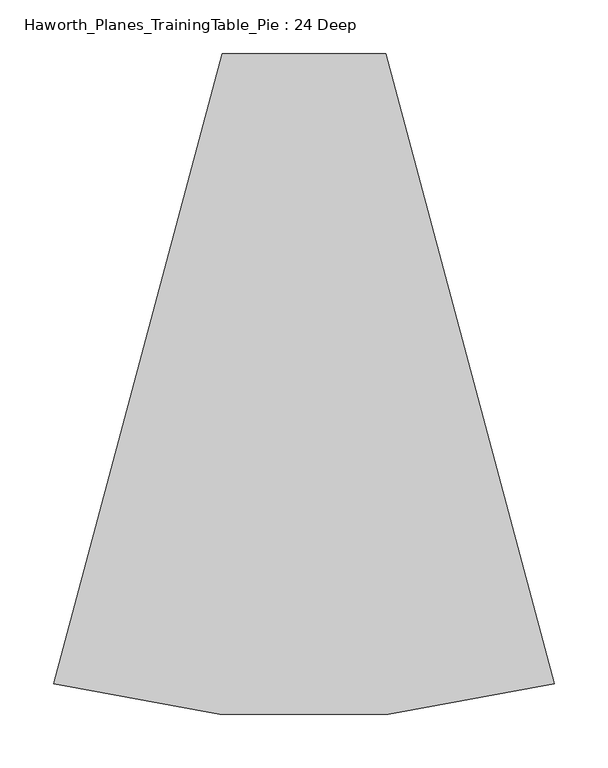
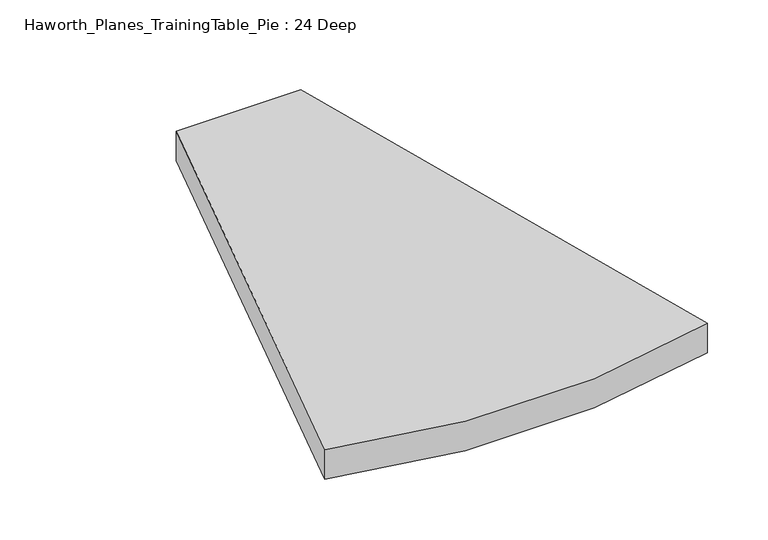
"""IFC4 building model written with IfcOpenShell, lengths in millimetres: furniture geometry, Haworth_Planes_TrainingTable_Pie : 24 Deep."""

import ifcopenshell
import ifcopenshell.guid

model = None  # the IFC model being written
_history = None  # IfcOwnerHistory: only IFC2X3 demands one
_inside = {}  # id of a spatial element -> (the spatial element, [elements in it])
_under = {}  # id of a project, library or spatial element -> (it, [spatial elements below it])
_declared = {}  # id of a project -> (the project, [libraries it declares])
_typed = {}  # id of a type object -> (the type object, [elements of that type])
_made_of = {}  # id of a material, layer set ... -> (it, [elements and type objects made of it])


def new_model(schema):
    """Start an empty IFC model of exactly this schema.

    Asked for "IFC4X3", IfcOpenShell would pick the latest addendum, in which some entities
    have other attributes; the version numbers below select the first issue.
    IFC2X3 requires an IfcOwnerHistory on every rooted entity: one is made here for all.
    """
    global model, _history
    if schema == "IFC4X3":
        model = ifcopenshell.file(schema_version=(4, 3, 0, 0))
    else:
        model = ifcopenshell.file(schema=schema)
    _inside.clear()
    _under.clear()
    _declared.clear()
    _typed.clear()
    _made_of.clear()
    _history = None
    if model.schema == "IFC2X3":
        org = make("IfcOrganization", Name="unknown")
        user = make(
            "IfcPersonAndOrganization",
            ThePerson=make("IfcPerson", FamilyName="unknown"),
            TheOrganization=org,
        )
        app = make(
            "IfcApplication",
            ApplicationDeveloper=org,
            Version="unknown",
            ApplicationFullName="unknown",
            ApplicationIdentifier="unknown",
        )
        _history = make(
            "IfcOwnerHistory",
            OwningUser=user,
            OwningApplication=app,
            ChangeAction="ADDED",
            CreationDate=0,
        )
    return model


def make(cls, **values):
    """One entity of the class cls with the attributes given. An attribute that is None is left unset."""
    return model.create_entity(
        cls, **{name: value for name, value in values.items() if value is not None}
    )


def rooted(cls, **values):
    """An entity with a GlobalId (a new one), such as an element, a storey or a relation."""
    return make(cls, GlobalId=ifcopenshell.guid.new(), OwnerHistory=_history, **values)


def si_unit(unit_type, name, prefix=None):
    """IfcSIUnit, for example si_unit("LENGTHUNIT", "METRE", prefix="MILLI")."""
    return make("IfcSIUnit", UnitType=unit_type, Prefix=prefix, Name=name)


def assignment(units):
    """IfcUnitAssignment: the units of a project."""
    return None if units is None else make("IfcUnitAssignment", Units=units)


def point(xyz):
    """IfcCartesianPoint."""
    return None if xyz is None else make("IfcCartesianPoint", Coordinates=xyz)


def direction(xyz):
    """IfcDirection."""
    return None if xyz is None else make("IfcDirection", DirectionRatios=xyz)


def frame(location, z_axis=None, x_axis=None):
    """IfcAxis2Placement3D, a coordinate frame: its origin and axes. An axis left out is left unset."""
    return make(
        "IfcAxis2Placement3D",
        Location=point(location),
        Axis=direction(z_axis),
        RefDirection=direction(x_axis),
    )


def frame_2d(location, x_axis=None):
    """IfcAxis2Placement2D, a coordinate frame in the plane: its origin and x axis."""
    return make(
        "IfcAxis2Placement2D", Location=point(location), RefDirection=direction(x_axis)
    )


def origin():
    """The frame at (0, 0, 0) with its axes left unset."""
    return frame((0.0, 0.0, 0.0))


def place(relative_to, where):
    """IfcLocalPlacement: puts the frame where relative to a parent placement (None: the world)."""
    return make(
        "IfcLocalPlacement", PlacementRelTo=relative_to, RelativePlacement=where
    )


def context(
    kind, dimensions, precision=None, world=None, true_north=None, identifier=None
):
    """IfcGeometricRepresentationContext, for example the 3D "Model" context."""
    return make(
        "IfcGeometricRepresentationContext",
        ContextIdentifier=identifier,
        ContextType=kind,
        CoordinateSpaceDimension=dimensions,
        Precision=precision,
        WorldCoordinateSystem=world,
        TrueNorth=true_north,
    )


def project(units=None, contexts=None):
    """IfcProject with its units and contexts."""
    return rooted(
        "IfcProject",
        Name="project",
        RepresentationContexts=contexts,
        UnitsInContext=assignment(units),
    )


def spatial(cls, under=None, at=None, **own):
    """A site, building, storey or space (cls), placed at a placement, below another one or the project."""
    s = rooted(cls, ObjectPlacement=at, **own)
    if under is not None:
        _under.setdefault(under.id(), (under, []))[1].append(s)
    return s


def polyline(points):
    """IfcPolyline through the points."""
    return make("IfcPolyline", Points=[point(p) for p in points])


def circle_curve(where, radius):
    """IfcCircle in the frame where."""
    return make("IfcCircle", Position=where, Radius=radius)


def trimmed(basis, trim1, trim2, sense, master):
    """IfcTrimmedCurve: the piece of a basis curve between two trims."""
    return make(
        "IfcTrimmedCurve",
        BasisCurve=basis,
        Trim1=trim1,
        Trim2=trim2,
        SenseAgreement=sense,
        MasterRepresentation=master,
    )


def segment(curve, same_sense, transition):
    """IfcCompositeCurveSegment."""
    return make(
        "IfcCompositeCurveSegment",
        Transition=transition,
        SameSense=same_sense,
        ParentCurve=curve,
    )


def composite_curve(segments, self_intersect=None):
    """IfcCompositeCurve: segments joined end to end."""
    return make("IfcCompositeCurve", Segments=segments, SelfIntersect=self_intersect)


def outline(outer, holes=None, kind="AREA"):
    """IfcArbitraryClosedProfileDef: a profile drawn as a closed curve; with holes, ...WithVoids."""
    if holes is None:
        return make("IfcArbitraryClosedProfileDef", ProfileType=kind, OuterCurve=outer)
    return make(
        "IfcArbitraryProfileDefWithVoids",
        ProfileType=kind,
        OuterCurve=outer,
        InnerCurves=holes,
    )


def extrude(swept, where, along, depth):
    """IfcExtrudedAreaSolid: the profile swept, set in the frame where, extruded along a direction by depth."""
    return make(
        "IfcExtrudedAreaSolid",
        SweptArea=swept,
        Position=where,
        ExtrudedDirection=direction(along),
        Depth=depth,
    )


def shape(context_of_items, identifier, shape_type, items):
    """IfcShapeRepresentation: the items that make up one representation, for example the "Body"."""
    return make(
        "IfcShapeRepresentation",
        ContextOfItems=context_of_items,
        RepresentationIdentifier=identifier,
        RepresentationType=shape_type,
        Items=items,
    )


def source(mapping_origin, context_of_items, identifier, shape_type, items):
    """IfcRepresentationMap: a shape defined once, which mapped items show again and again."""
    return make(
        "IfcRepresentationMap",
        MappingOrigin=mapping_origin,
        MappedRepresentation=shape(context_of_items, identifier, shape_type, items),
    )


def transform(
    local_origin,
    x_axis=None,
    y_axis=None,
    z_axis=None,
    scale=None,
    scale2=None,
    scale3=None,
    uniform=True,
):
    """IfcCartesianTransformationOperator3D, or its non-uniform kind. x_axis, y_axis, z_axis: its Axis1, 2, 3."""
    if uniform:
        return make(
            "IfcCartesianTransformationOperator3D",
            Axis1=direction(x_axis),
            Axis2=direction(y_axis),
            LocalOrigin=point(local_origin),
            Scale=scale,
            Axis3=direction(z_axis),
        )
    return make(
        "IfcCartesianTransformationOperator3DnonUniform",
        Axis1=direction(x_axis),
        Axis2=direction(y_axis),
        LocalOrigin=point(local_origin),
        Scale=scale,
        Axis3=direction(z_axis),
        Scale2=scale2,
        Scale3=scale3,
    )


def mapped(mapping_source, mapping_target):
    """IfcMappedItem: shows the shape of a source again, moved by a transform."""
    return make(
        "IfcMappedItem", MappingSource=mapping_source, MappingTarget=mapping_target
    )


def made_of(thing, what):
    """Note that an element or type object is made of a material, layer set ...; save() writes the relation."""
    if what is not None:
        _made_of.setdefault(what.id(), (what, []))[1].append(thing)
    return thing


def element(
    cls,
    number,
    at=None,
    inside=None,
    cuts=None,
    type_object=None,
    material=None,
    context=None,
    identifier="Body",
    shape_type=None,
    held_by="IfcProductDefinitionShape",
    body=None,
    shapes=None,
    **own,
):
    """One element of the class cls, such as IfcWall. Its Tag is "e" and its number.

    at: its placement. inside: the storey or other place that contains it. cuts: it is an
    opening in that element (IfcRelVoidsElement). A single representation is given by context,
    identifier, shape_type and body (its items); several are given by shapes. held_by: the class
    of the entity that holds the representations. save() writes the other relations.
    """
    e = rooted(cls, Tag="e%d" % number, ObjectPlacement=at, **own)
    if body is not None:
        shapes = [shape(context, identifier, shape_type, body)]
    if shapes is not None:
        e.Representation = make(held_by, Representations=shapes)
    if inside is not None:
        _inside.setdefault(inside.id(), (inside, []))[1].append(e)
    if cuts is not None:
        rooted(
            "IfcRelVoidsElement", RelatingBuildingElement=cuts, RelatedOpeningElement=e
        )
    if type_object is not None:
        _typed.setdefault(type_object.id(), (type_object, []))[1].append(e)
    return made_of(e, material)


def aggregate(whole, parts):
    """IfcRelAggregates: a whole, such as a stair, and the parts it consists of."""
    return rooted("IfcRelAggregates", RelatingObject=whole, RelatedObjects=parts)


def save(model, path):
    """Write the relations noted so far, then the file.

    IfcRelAggregates (storeys below a building ...), IfcRelContainedInSpatialStructure (elements
    in a storey), IfcRelDefinesByType, IfcRelAssociatesMaterial and IfcRelDeclares: one each for
    every whole, place, type object, material and project.
    """
    for whole, parts in _under.values():
        aggregate(whole, parts)
    for where, things in _inside.values():
        rooted(
            "IfcRelContainedInSpatialStructure",
            RelatedElements=things,
            RelatingStructure=where,
        )
    for kind, things in _typed.values():
        rooted("IfcRelDefinesByType", RelatedObjects=things, RelatingType=kind)
    for what, things in _made_of.values():
        rooted("IfcRelAssociatesMaterial", RelatedObjects=things, RelatingMaterial=what)
    for by, libraries in _declared.values():
        rooted("IfcRelDeclares", RelatingContext=by, RelatedDefinitions=libraries)
    model.write(path)


def haworth_planes_trainingtable_pie_24_deep_1534c981(model_context):
    return source(origin(), model_context, "Body", "SweptSolid", [
        extrude(outline(composite_curve([segment(polyline([(-59.257819, 76.2), (93.142181, 76.2), (250.9182709, -512.6283837)]), True, "CONTINUOUS"), segment(trimmed(circle_curve(frame_2d((16.942181, 321.0945777)), 865.9323224), [point((250.9182709, -512.6283837))], [point((-217.0339089, -512.6283837))], False, "CARTESIAN"), True, "CONTINUOUS"), segment(polyline([(-217.0339089, -512.6283837), (-59.257819, 76.2)]), True, "CONTINUOUS")], self_intersect=False)), frame((0.0, 0.0, 698.5), z_axis=(0.0, 0.0, 1.0), x_axis=(1.0, 0.0, 0.0)), (0.0, 0.0, 1.0), 38.1),
    ])


if __name__ == "__main__":
    model = new_model("IFC4")
    model_context = context("Model", 3, world=origin())
    ifc_project = project(units=[si_unit("LENGTHUNIT", "METRE", prefix="MILLI")], contexts=[model_context])
    site = spatial("IfcSite", under=ifc_project)
    building = spatial("IfcBuilding", under=site)
    placement = place(None, origin())
    haworth_planes_trainingtable_pie_24_deep_shape = haworth_planes_trainingtable_pie_24_deep_1534c981(model_context)
    element("IfcFurniture", 1, ObjectType="Haworth_Planes_TrainingTable_Pie : 24 Deep", at=placement, inside=building, context=model_context, shape_type="MappedRepresentation", body=[
        mapped(haworth_planes_trainingtable_pie_24_deep_shape, transform((0.0, 0.0, 0.0), x_axis=(1.0, 0.0, 0.0), y_axis=(0.0, 1.0, 0.0), z_axis=(0.0, 0.0, 1.0))),
    ])
    save(model, "model.ifc")
